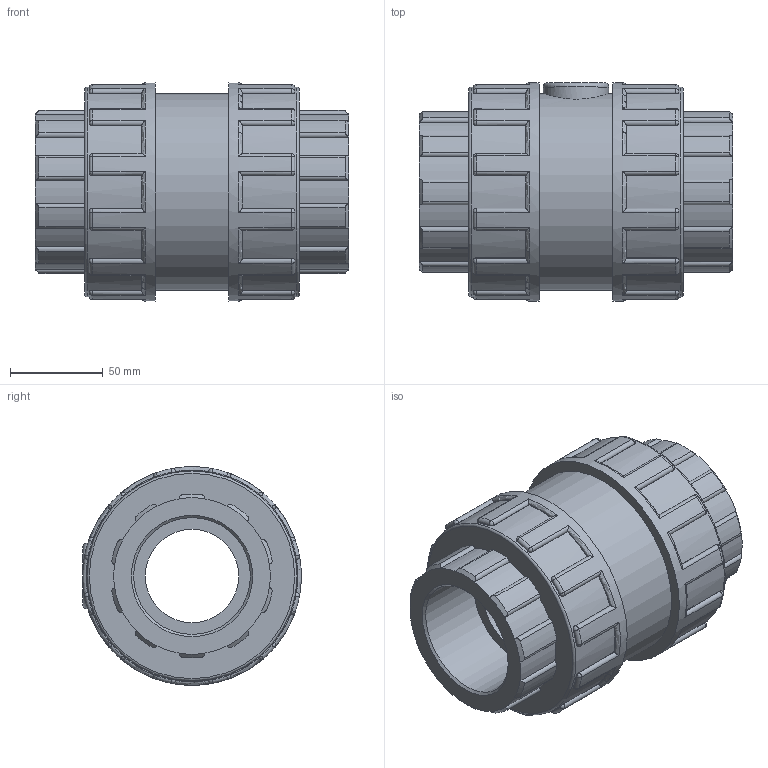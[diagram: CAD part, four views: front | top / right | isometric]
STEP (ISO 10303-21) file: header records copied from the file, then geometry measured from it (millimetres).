
FILE_DESCRIPTION(/* description */ ('PLASSON FOOT VALVE CEM PVC 63'),/* implementation_level */ '2;1');
FILE_NAME(/* name */ 'C:\Dropbox\KIMPROJECTS-Inventor\99-16-3568-Processing\PVC Catalog 2017\116400 - 116000\116400063.ipt.stp',/* time_stamp */ '2017-12-07T16:14:12+02:00',/* author */ ('KIM'),/* organization */ (''),/* preprocessor_version */ 'ST-DEVELOPER v15.6',/* originating_system */ 'Autodesk Inventor 2015',/* authorisation */ '');
FILE_SCHEMA (('AUTOMOTIVE_DESIGN { 1 0 10303 214 3 1 1 }'));
Length unit declared in the file: millimetre
Products named in the file (1): 116400063
Bounding box: 169 x 118 x 118 mm (x, y, z)
Volume: 1042864.9 mm3; surface area: 109392.6 mm2
Topology: 1 solids, 1 shells, 411 faces, 1021 edges, 618 vertices
Faces by surface type: cylinder 185, plane 105, torus 51, sphere 48, cone 22
Full cylindrical faces by diameter (mm): 35.4 x1, 50.4 x1, 63 x2, 106.2 x1, 113.28 x2, 118 x2
Entity records: 13410 total; most frequent: CARTESIAN_POINT 3631, DIRECTION 2180, ORIENTED_EDGE 1998, EDGE_CURVE 999, AXIS2_PLACEMENT_3D 906, VERTEX_POINT 611, CIRCLE 494, EDGE_LOOP 434
